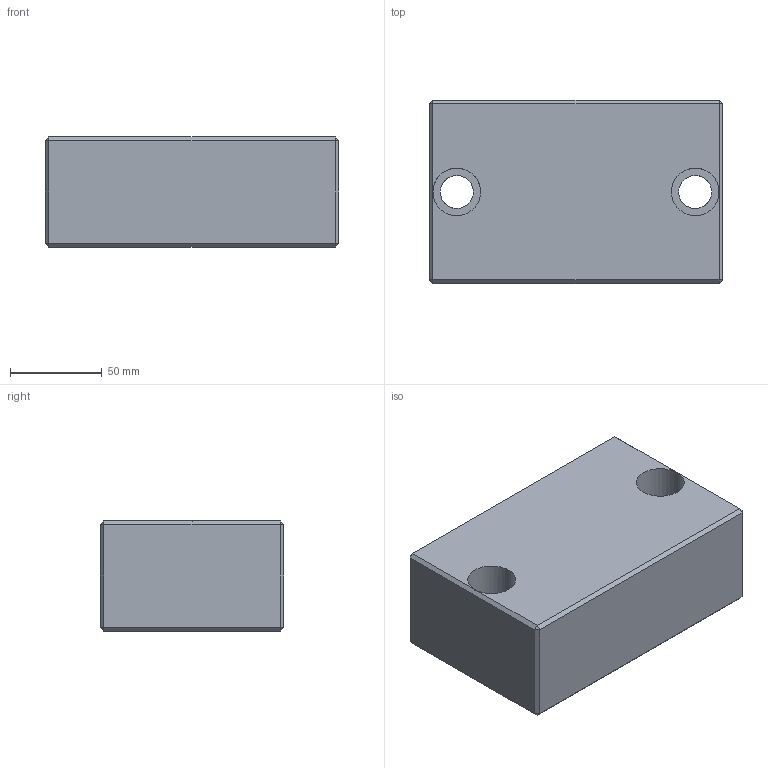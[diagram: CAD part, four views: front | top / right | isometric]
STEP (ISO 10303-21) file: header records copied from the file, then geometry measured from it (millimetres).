
FILE_DESCRIPTION(('CATIA V5 STEP Exchange'),'2;1');
FILE_NAME('C:\Users\Utente\Desktop\IO LAVORO\3D X SITO CF\X 3D SITO CF 27-09-2020\759\759+160+100+60+18.stp','2020-10-28T19:16:53+00:00',('none'),('none'),'CATIA Version 5 Release 20 GA (IN-10)','CATIA V5 STEP AP203','none');
FILE_SCHEMA(('CONFIG_CONTROL_DESIGN'));
Length unit declared in the file: millimetre
Products named in the file (1): 759+160+100+60+18
Bounding box: 160 x 100 x 60 mm (x, y, z)
Volume: 903723.7 mm3; surface area: 69567.4 mm2
Topology: 1 solids, 1 shells, 36 faces, 74 edges, 40 vertices
Faces by surface type: plane 28, cylinder 8
Entity records: 1049 total; most frequent: CARTESIAN_POINT 266, ORIENTED_EDGE 148, DIRECTION 141, EDGE_CURVE 74, VECTOR 58, LINE 58, AXIS2_PLACEMENT_3D 48, EDGE_LOOP 40
